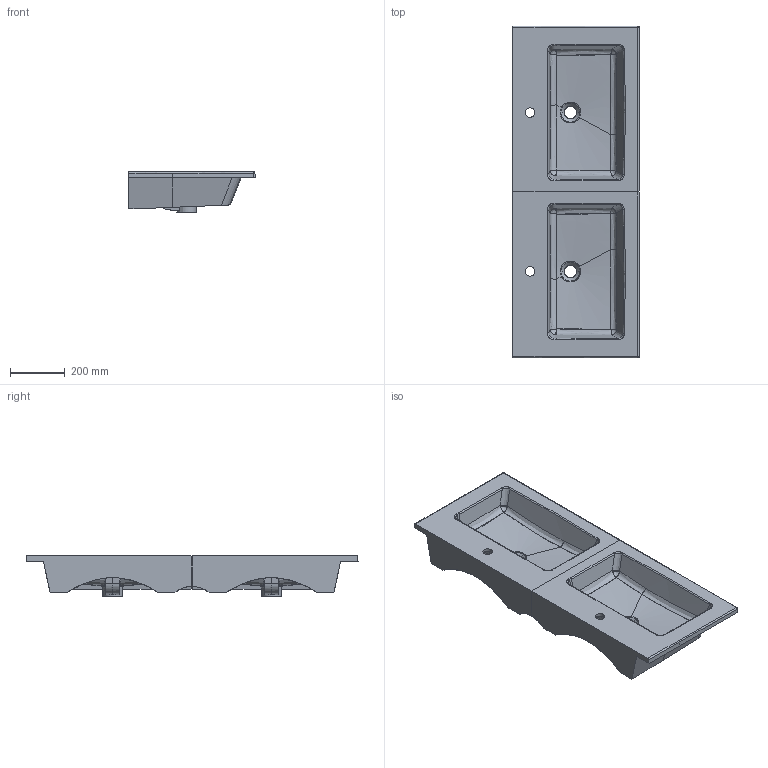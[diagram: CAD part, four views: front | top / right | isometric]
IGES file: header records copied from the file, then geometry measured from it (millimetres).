
Start section: START RECORD GO HERE.
Global section: file name: LAVABO 121x46 doppia vasca.igs; native system: DASSAULT SYSTEMES CATIA V5 R19 - www.3ds.com; preprocessor: CATIA Version 5 Release 19 SP 5 ; author: Luca; organization: DESKTOP-V7SON24; date: 20200124.162852; units: millimetre
Bounding box: 460.7 x 1211.4 x 147.5 mm (x, y, z)
Surface area: 1916860.4 mm2 (no closed solid volume)
Topology: 0 solids, 0 shells, 255 faces, 1338 edges, 1328 vertices
Faces by surface type: bspline 160, plane 49, revolution 42, extrusion 4
